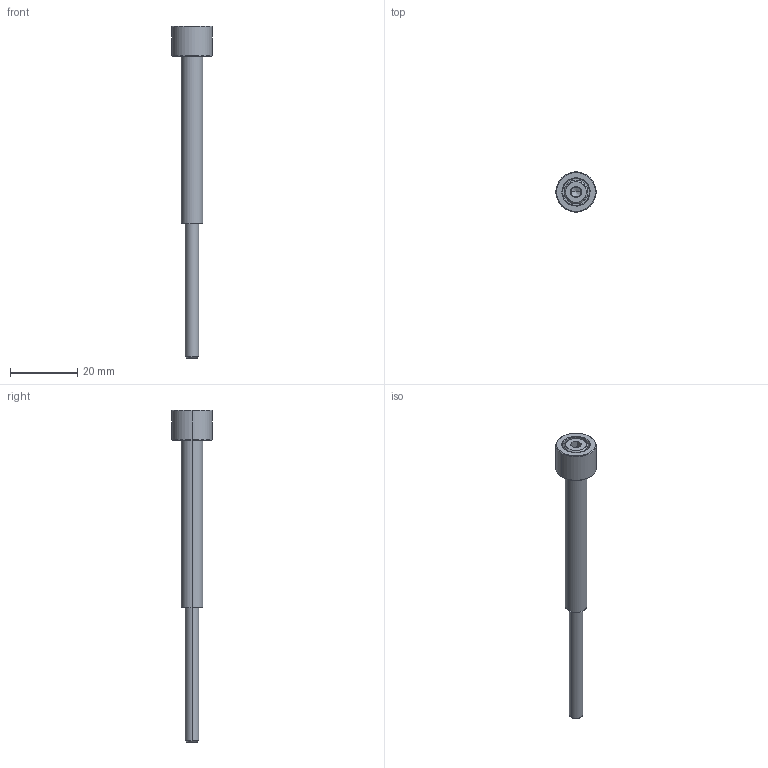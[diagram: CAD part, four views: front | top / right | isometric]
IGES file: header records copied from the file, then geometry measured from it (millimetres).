
Global section: file name: E:\UnigraphicsGraphicData\MISUMI_PRESS-PARTS\IGES\3d_sbjh6.5-50-95_05044_r00.igs; native system: NX V5.0; preprocessor: UGS NX IGES V5.0; author: MISUMI; date: 20110105.162426; units: millimetre
Bounding box: 12 x 12 x 99 mm (x, y, z)
Surface area: 3754 mm2 (no closed solid volume)
Topology: 0 solids, 0 shells, 48 faces, 276 edges, 274 vertices
Faces by surface type: bspline 48
